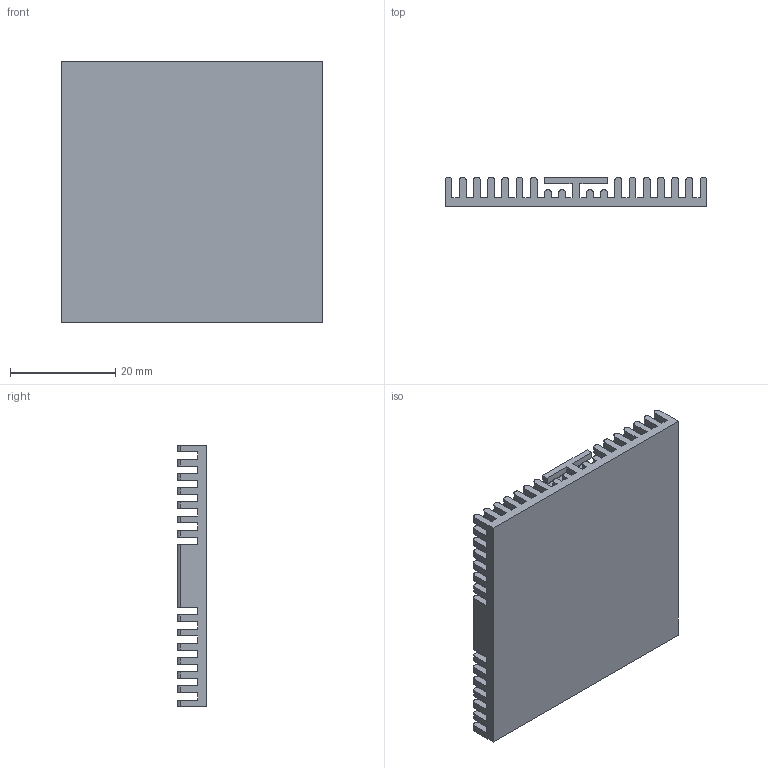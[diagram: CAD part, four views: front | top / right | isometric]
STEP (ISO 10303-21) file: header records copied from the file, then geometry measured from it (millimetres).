
FILE_DESCRIPTION (( 'STEP AP214' ), '1' );
FILE_NAME ('7G-0026A.STEP', '2022-07-27T01:06:05', ( '' ), ( '' ), 'SwSTEP 2.0', 'SolidWorks 2016', '' );
FILE_SCHEMA (( 'AUTOMOTIVE_DESIGN' ));
Length unit declared in the file: millimetre
Products named in the file (1): 7G-0026A
Bounding box: 49.8 x 5.6 x 49.8 mm (x, y, z)
Volume: 7053.8 mm3; surface area: 12344.4 mm2
Topology: 1 solids, 1 shells, 1423 faces, 3600 edges, 2400 vertices
Faces by surface type: plane 1153, cylinder 270
Entity records: 42474 total; most frequent: CARTESIAN_POINT 7424, ORIENTED_EDGE 7200, DIRECTION 6988, EDGE_CURVE 3600, LINE 3060, VECTOR 3060, VERTEX_POINT 2400, AXIS2_PLACEMENT_3D 1964
